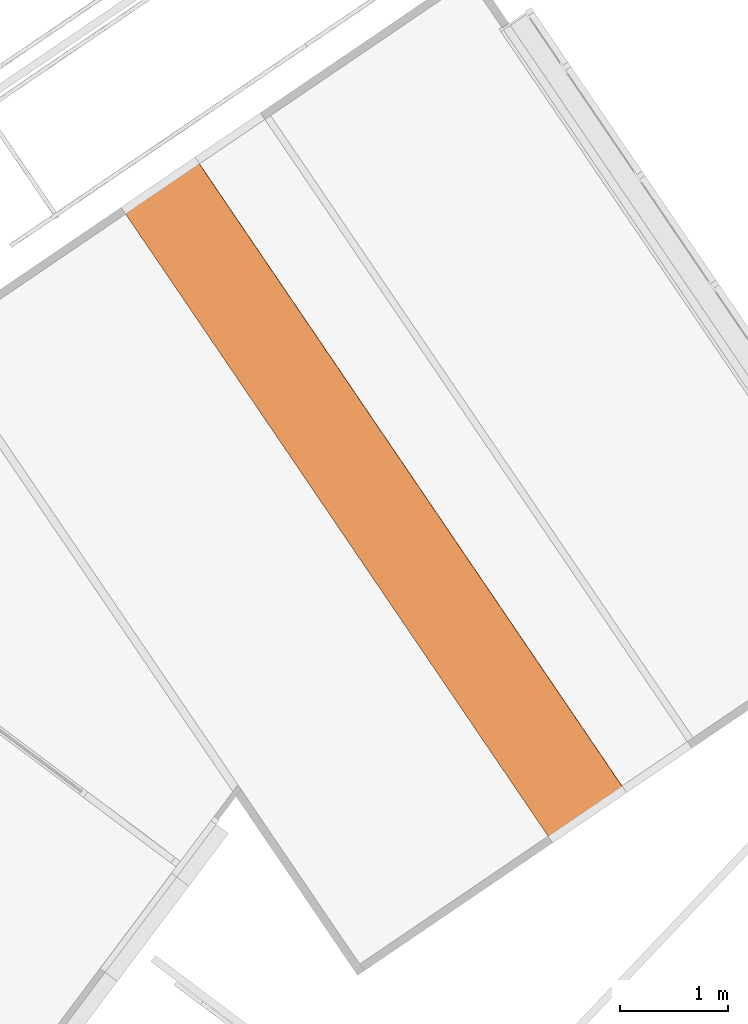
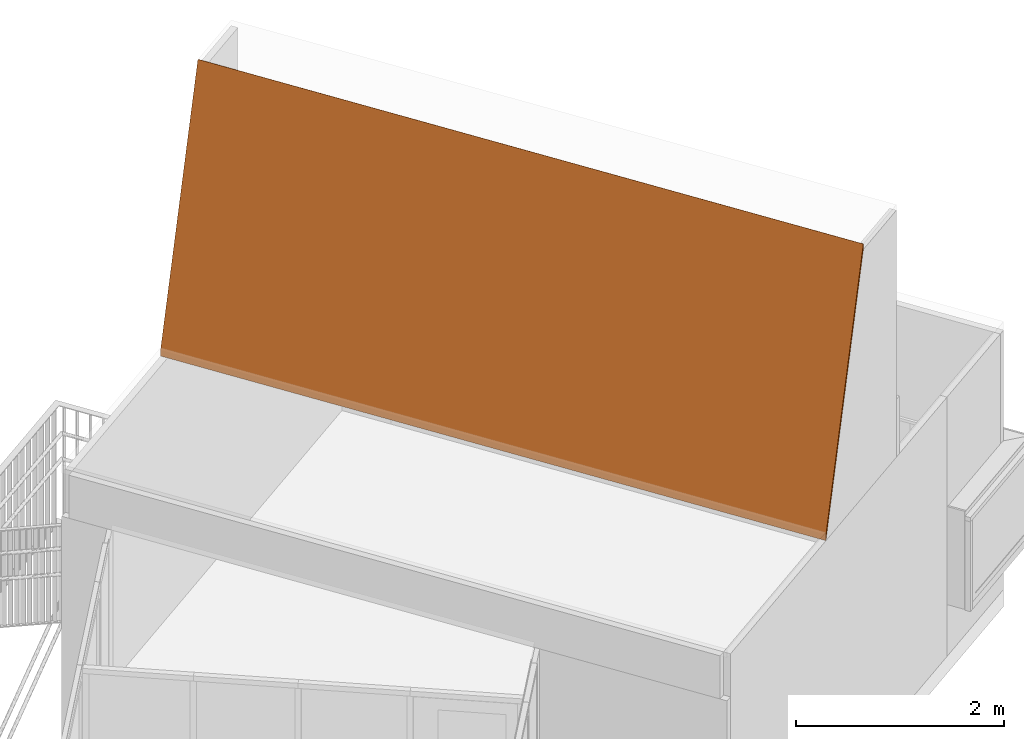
# One storey, part 243 of 243: 1 proxy.
"""IFC2X3 building model written with IfcOpenShell, lengths in metres."""

from ifc_helpers import new_model, entity, si_unit, converted_unit, derived_unit, direction, frame, origin, place, context, subcontext, project, spatial, polyline, outline, extrude, source, transform, mapped, material, type_object, type_shapes, element, save


model = new_model("IFC2X3")

# Units and contexts
model_context = context("Model", 3, precision=1e-05, world=origin(), true_north=direction((6.123031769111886e-17, 1.0)))
body_context = subcontext(model_context, "Body", "Model", "MODEL_VIEW")
ifc_project = project(units=[si_unit("LENGTHUNIT", "METRE"), si_unit("AREAUNIT", "SQUARE_METRE"), si_unit("VOLUMEUNIT", "CUBIC_METRE"), converted_unit("PLANEANGLEUNIT", "DEGREE", entity("IfcRatioMeasure", 0.017453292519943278), si_unit("PLANEANGLEUNIT", "RADIAN"), dimensions=[0, 0, 0, 0, 0, 0, 0]), si_unit("MASSUNIT", "GRAM", prefix="KILO"), derived_unit("MASSDENSITYUNIT", [(si_unit("MASSUNIT", "GRAM", prefix="KILO"), 1), (si_unit("LENGTHUNIT", "METRE"), -3)]), derived_unit("IONCONCENTRATIONUNIT", [(si_unit("MASSUNIT", "GRAM", prefix="KILO"), 1), (si_unit("LENGTHUNIT", "METRE"), -3)]), derived_unit("MOMENTOFINERTIAUNIT", [(si_unit("LENGTHUNIT", "METRE"), 4)]), si_unit("TIMEUNIT", "SECOND"), si_unit("FREQUENCYUNIT", "HERTZ"), si_unit("THERMODYNAMICTEMPERATUREUNIT", "DEGREE_CELSIUS"), derived_unit("THERMALTRANSMITTANCEUNIT", [(si_unit("MASSUNIT", "GRAM", prefix="KILO"), 1), (si_unit("THERMODYNAMICTEMPERATUREUNIT", "KELVIN"), -1), (si_unit("TIMEUNIT", "SECOND"), -3)]), derived_unit("THERMALCONDUCTANCEUNIT", [(si_unit("MASSUNIT", "GRAM", prefix="KILO"), 1), (si_unit("THERMODYNAMICTEMPERATUREUNIT", "KELVIN"), -1), (si_unit("TIMEUNIT", "SECOND"), -3), (si_unit("LENGTHUNIT", "METRE"), 1)]), derived_unit("VOLUMETRICFLOWRATEUNIT", [(si_unit("LENGTHUNIT", "METRE"), 3), (si_unit("TIMEUNIT", "SECOND"), -1)]), derived_unit("MASSFLOWRATEUNIT", [(si_unit("MASSUNIT", "GRAM", prefix="KILO"), 1), (si_unit("TIMEUNIT", "SECOND"), -1)]), derived_unit("ROTATIONALFREQUENCYUNIT", [(si_unit("TIMEUNIT", "SECOND"), -1)]), si_unit("ELECTRICCURRENTUNIT", "AMPERE"), si_unit("ELECTRICVOLTAGEUNIT", "VOLT"), si_unit("POWERUNIT", "WATT"), si_unit("FORCEUNIT", "NEWTON", prefix="KILO"), si_unit("ILLUMINANCEUNIT", "LUX"), si_unit("LUMINOUSFLUXUNIT", "LUMEN"), si_unit("LUMINOUSINTENSITYUNIT", "CANDELA"), derived_unit("USERDEFINED", [(si_unit("MASSUNIT", "GRAM", prefix="KILO"), -1), (si_unit("LENGTHUNIT", "METRE"), -2), (si_unit("TIMEUNIT", "SECOND"), 3), (si_unit("LUMINOUSFLUXUNIT", "LUMEN"), 1)]), derived_unit("USERDEFINED", [(si_unit("MASSUNIT", "GRAM", prefix="KILO"), 1), (si_unit("TIMEUNIT", "SECOND"), -3), (si_unit("LENGTHUNIT", "METRE"), 3), (si_unit("ELECTRICCURRENTUNIT", "AMPERE"), -2)]), derived_unit("SOUNDPOWERUNIT", [(si_unit("MASSUNIT", "GRAM", prefix="KILO"), 1), (si_unit("TIMEUNIT", "SECOND"), -3), (si_unit("LENGTHUNIT", "METRE"), 2)]), derived_unit("SOUNDPRESSUREUNIT", [(si_unit("MASSUNIT", "GRAM", prefix="KILO"), 1), (si_unit("LENGTHUNIT", "METRE"), -1), (si_unit("TIMEUNIT", "SECOND"), -2)]), derived_unit("LINEARVELOCITYUNIT", [(si_unit("LENGTHUNIT", "METRE"), 1), (si_unit("TIMEUNIT", "SECOND"), -1)]), si_unit("PRESSUREUNIT", "PASCAL"), derived_unit("USERDEFINED", [(si_unit("MASSUNIT", "GRAM", prefix="KILO"), 1), (si_unit("LENGTHUNIT", "METRE"), -2), (si_unit("TIMEUNIT", "SECOND"), -2)]), derived_unit("LINEARFORCEUNIT", [(si_unit("MASSUNIT", "GRAM", prefix="KILO"), 1), (si_unit("TIMEUNIT", "SECOND"), -2)]), derived_unit("PLANARFORCEUNIT", [(si_unit("MASSUNIT", "GRAM", prefix="KILO"), 1), (si_unit("LENGTHUNIT", "METRE"), -1), (si_unit("TIMEUNIT", "SECOND"), -2)]), derived_unit("SPECIFICHEATCAPACITYUNIT", [(si_unit("THERMODYNAMICTEMPERATUREUNIT", "KELVIN"), -1), (si_unit("LENGTHUNIT", "METRE"), 2), (si_unit("TIMEUNIT", "SECOND"), -2)]), derived_unit("HEATINGVALUEUNIT", [(si_unit("LENGTHUNIT", "METRE"), 2), (si_unit("TIMEUNIT", "SECOND"), -2)]), derived_unit("VAPORPERMEABILITYUNIT", [(si_unit("LENGTHUNIT", "METRE"), -1), (si_unit("TIMEUNIT", "SECOND"), 1)]), derived_unit("DYNAMICVISCOSITYUNIT", [(si_unit("MASSUNIT", "GRAM", prefix="KILO"), 1), (si_unit("TIMEUNIT", "SECOND"), -1), (si_unit("LENGTHUNIT", "METRE"), -1)]), derived_unit("THERMALEXPANSIONCOEFFICIENTUNIT", [(si_unit("THERMODYNAMICTEMPERATUREUNIT", "KELVIN"), -1)]), derived_unit("MODULUSOFELASTICITYUNIT", [(si_unit("MASSUNIT", "GRAM", prefix="KILO"), 1), (si_unit("LENGTHUNIT", "METRE"), -1), (si_unit("TIMEUNIT", "SECOND"), -2)]), derived_unit("ISOTHERMALMOISTURECAPACITYUNIT", [(si_unit("LENGTHUNIT", "METRE"), 3), (si_unit("MASSUNIT", "GRAM", prefix="KILO"), -1)]), derived_unit("MOISTUREDIFFUSIVITYUNIT", [(si_unit("TIMEUNIT", "SECOND"), -1), (si_unit("LENGTHUNIT", "METRE"), 2)])], contexts=[model_context])

# Site, building, storey
site_placement = place(None, frame((0.0, 0.0, 235.0), z_axis=(0.0, 0.0, 1.0), x_axis=(-0.7996477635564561, 0.6004693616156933, 0.0)))
site = spatial("IfcSite", under=ifc_project, at=site_placement, Name="Default", CompositionType="ELEMENT")
building_placement = place(site_placement, origin())
building = spatial("IfcBuilding", under=site, at=building_placement, CompositionType="ELEMENT")
storey_placement = place(building_placement, origin())
storey = spatial("IfcBuildingStorey", under=building, at=storey_placement, Name="P0- Escola", CompositionType="ELEMENT", Elevation=0.0)

# Proxy
ifc_material = material(Name="<Unnamed>")
building_element_proxy_type = type_object("IfcBuildingElementProxyType", Name="SOS- fals sostre biblio:SOS- fals sostre biblio", PredefinedType="NOTDEFINED", material=ifc_material)
shared_shape = source(origin(), body_context, "Body", "SweptSolid", [
    extrude(outline(polyline([(-1.7775788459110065, -0.49514952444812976), (-1.7046846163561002, -0.49514952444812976), (1.1824211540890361, 0.32859809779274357), (1.1824211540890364, 0.330850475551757), (1.1174211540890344, 0.33085047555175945), (-1.7775788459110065, -0.49514952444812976)])), frame((0.0, 0.3308504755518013, 1.777578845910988), z_axis=(1.0, 0.0, 0.0), x_axis=(0.0, 0.0, 1.0)), (0.0, 0.0, 1.0), 7.1000000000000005),
])
type_shapes(building_element_proxy_type, [shared_shape])
proxy_placement = place(storey_placement, frame((59.1938530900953, -47.69366924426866, 3.039999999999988), z_axis=(0.0, 0.0, 1.0), x_axis=(0.9460037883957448, -0.32415556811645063, 0.0)))
element("IfcBuildingElementProxy", 1, at=proxy_placement, inside=storey, type_object=building_element_proxy_type, material=ifc_material, Name="SOS- fals sostre biblio:SOS- fals sostre biblio", ObjectType="SOS- fals sostre biblio:SOS- fals sostre biblio", context=body_context, shape_type="MappedRepresentation", body=[
    mapped(shared_shape, transform((0.0, 0.0, 0.0), scale=1.0)),
])

save(model, "model.ifc")
